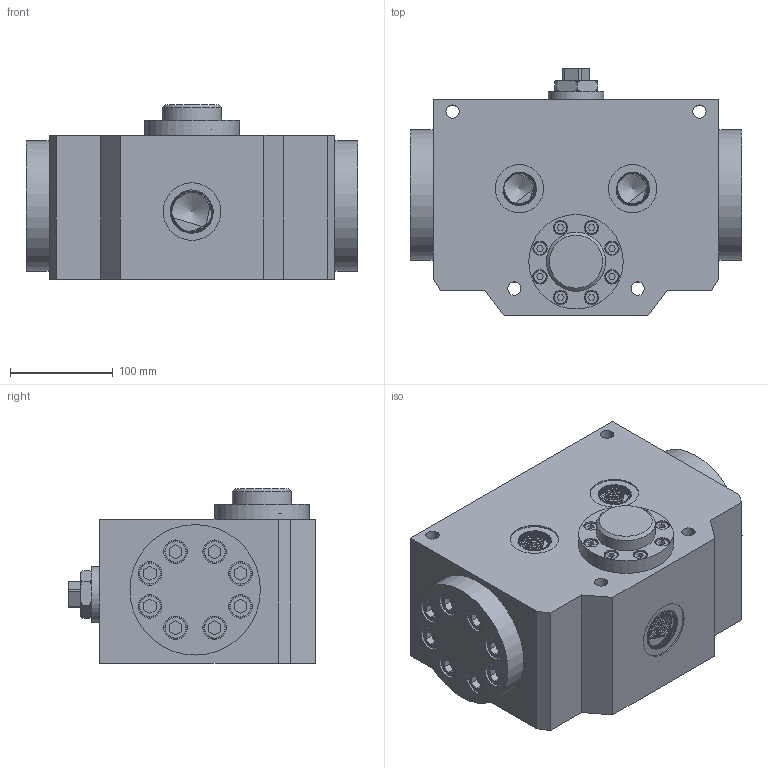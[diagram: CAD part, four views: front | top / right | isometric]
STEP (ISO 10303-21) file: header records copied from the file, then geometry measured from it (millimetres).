
FILE_DESCRIPTION(/* description */ (''),/* implementation_level */ '2;1');
FILE_NAME(/* name */ '26.prt.stp',/* time_stamp */ '2023-05-05T13:55:22+08:00',/* author */ (''),/* organization */ (''),/* preprocessor_version */ 'ST-DEVELOPER v16.7',/* originating_system */ 'SIEMENS PLM Software NX 12.0',/* authorisation */ '');
FILE_SCHEMA (('AUTOMOTIVE_DESIGN { 1 0 10303 214 3 1 1 1 }'));
Length unit declared in the file: millimetre
Products named in the file (1): 26
Bounding box: 322 x 240 x 170 mm (x, y, z)
Volume: 8216381.8 mm3; surface area: 528272.4 mm2
Topology: 32 solids, 32 shells, 690 faces, 1670 edges, 1095 vertices
Faces by surface type: plane 402, cylinder 191, cone 52, torus 36, bspline 9
Full cylindrical faces by diameter (mm): 6.8 x8, 8 x8, 9 x8, 12.1 x16, 13 x12, 14 x24, 16 x16, 21 x16, 23 x16, 47 x2, 53.955 x1, 56 x1, 57.518 x2, 91.862 x1, 126.901 x2
Entity records: 38859 total; most frequent: CARTESIAN_POINT 23472, DIRECTION 3133, ORIENTED_EDGE 2682, EDGE_CURVE 1341, AXIS2_PLACEMENT_3D 1170, EDGE_LOOP 1080, VERTEX_POINT 1026, LINE 793
